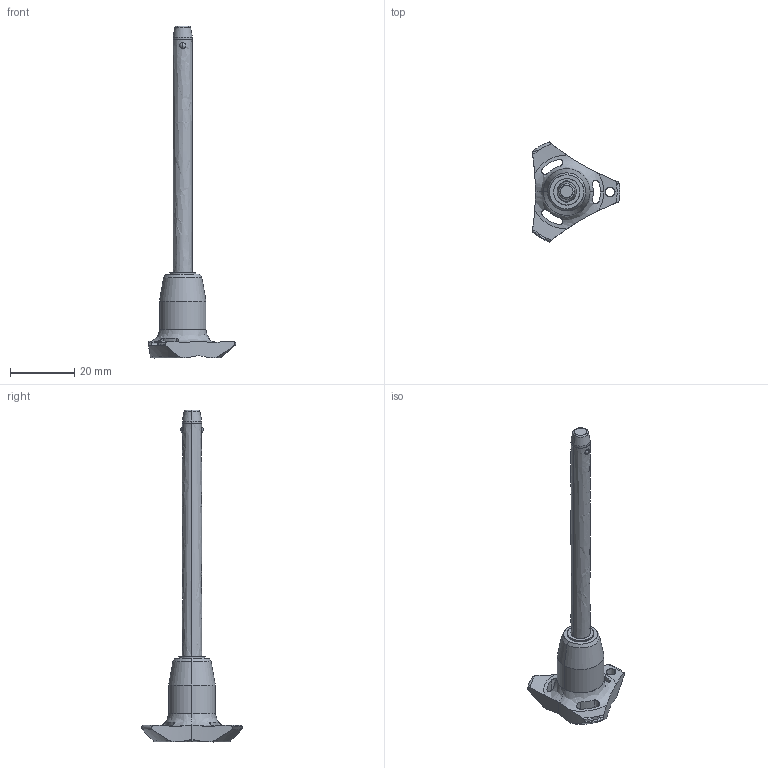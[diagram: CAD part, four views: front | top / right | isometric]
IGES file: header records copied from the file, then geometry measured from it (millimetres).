
Start section: SolidWorks IGES file using analytic representation for surfaces
Global section: file name: C:\Users\ianosborn\Desktop\QR1726_v2\QR1726_v2_20251115_IGES\QR1726.M06-070-T.igs; native system: SolidWorks 2019; preprocessor: SolidWorks 2019; author: IanOsborn; date: 251113.105859; units: millimetre
Bounding box: 27.4 x 31.31 x 103.7 mm (x, y, z)
Surface area: 3872.5 mm2 (no closed solid volume)
Topology: 0 solids, 0 shells, 69 faces, 1323 edges, 1304 vertices
Faces by surface type: revolution 52, bspline 17
